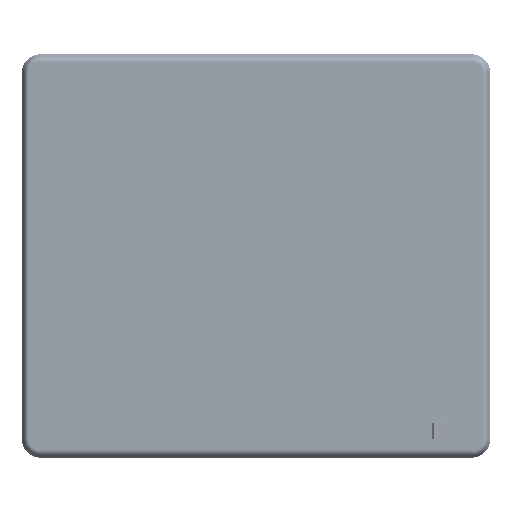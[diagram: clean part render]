
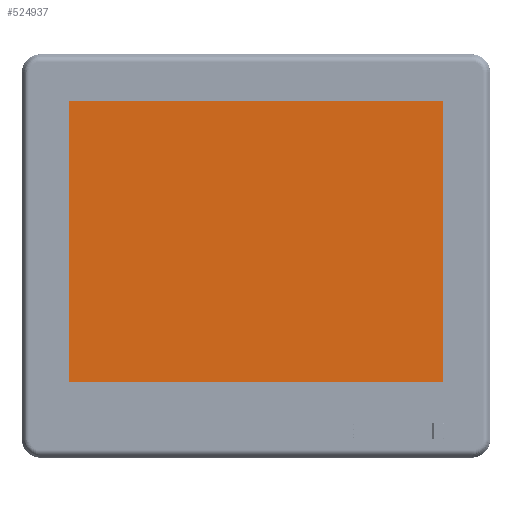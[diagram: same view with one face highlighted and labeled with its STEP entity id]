
A CAD part, top view. The second image highlights one B-rep face of the part: STEP entity #524937.
In plain terms, the highlighted planar face has unit normal (0, 0, 1).
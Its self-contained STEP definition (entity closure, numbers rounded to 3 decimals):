
#7463 = CARTESIAN_POINT ( 'NONE',  ( -174.32, 77.628, -35.889 ) ) ;
#25138 = ORIENTED_EDGE ( 'NONE', *, *, #76635, .T. ) ;
#56555 = CARTESIAN_POINT ( 'NONE',  ( -278.92, -0.422, -35.889 ) ) ;
#63964 = DIRECTION ( 'NONE',  ( 1., 0., 0. ) ) ;
#76635 = EDGE_CURVE ( 'NONE', #589100, #670904, #517645, .T. ) ;
#88937 = EDGE_CURVE ( 'NONE', #230900, #589100, #576657, .T. ) ;
#152661 = VERTEX_POINT ( 'NONE', #56555 ) ;
#162487 = CARTESIAN_POINT ( 'NONE',  ( -278.92, 157.978, -35.889 ) ) ;
#181578 = AXIS2_PLACEMENT_3D ( 'NONE', #7463, #401286, #63964 ) ;
#189545 = CARTESIAN_POINT ( 'NONE',  ( -67.72, -0.422, -35.889 ) ) ;
#205173 = DIRECTION ( 'NONE',  ( -1., 0., 0. ) ) ;
#210124 = LINE ( 'NONE', #162487, #457615 ) ;
#219024 = DIRECTION ( 'NONE',  ( 0., -1., 0. ) ) ;
#230900 = VERTEX_POINT ( 'NONE', #189545 ) ;
#234278 = VECTOR ( 'NONE', #362757, 1000. ) ;
#298823 = DIRECTION ( 'NONE',  ( 0., 1., 0. ) ) ;
#305725 = EDGE_CURVE ( 'NONE', #670904, #152661, #210124, .T. ) ;
#306114 = CARTESIAN_POINT ( 'NONE',  ( -278.92, -0.422, -35.889 ) ) ;
#348319 = CARTESIAN_POINT ( 'NONE',  ( -278.92, 157.978, -35.889 ) ) ;
#355463 = CARTESIAN_POINT ( 'NONE',  ( -67.72, 157.978, -35.889 ) ) ;
#362757 = DIRECTION ( 'NONE',  ( 1., 0., 0. ) ) ;
#401286 = DIRECTION ( 'NONE',  ( 0., 0., 1. ) ) ;
#402977 = ORIENTED_EDGE ( 'NONE', *, *, #88937, .T. ) ;
#427072 = VECTOR ( 'NONE', #298823, 1000. ) ;
#455441 = PLANE ( 'NONE',  #181578 ) ;
#457615 = VECTOR ( 'NONE', #219024, 1000. ) ;
#481036 = FACE_OUTER_BOUND ( 'NONE', #639640, .T. ) ;
#517645 = LINE ( 'NONE', #348319, #649665 ) ;
#524937 = ADVANCED_FACE ( 'NONE', ( #481036 ), #455441, .T. ) ;
#551208 = LINE ( 'NONE', #306114, #234278 ) ;
#576657 = LINE ( 'NONE', #355463, #427072 ) ;
#589100 = VERTEX_POINT ( 'NONE', #617422 ) ;
#617422 = CARTESIAN_POINT ( 'NONE',  ( -67.72, 157.978, -35.889 ) ) ;
#633639 = CARTESIAN_POINT ( 'NONE',  ( -278.92, 157.978, -35.889 ) ) ;
#639640 = EDGE_LOOP ( 'NONE', ( #729253, #709249, #402977, #25138 ) ) ;
#646453 = EDGE_CURVE ( 'NONE', #152661, #230900, #551208, .T. ) ;
#649665 = VECTOR ( 'NONE', #205173, 1000. ) ;
#670904 = VERTEX_POINT ( 'NONE', #633639 ) ;
#709249 = ORIENTED_EDGE ( 'NONE', *, *, #646453, .T. ) ;
#729253 = ORIENTED_EDGE ( 'NONE', *, *, #305725, .T. ) ;
